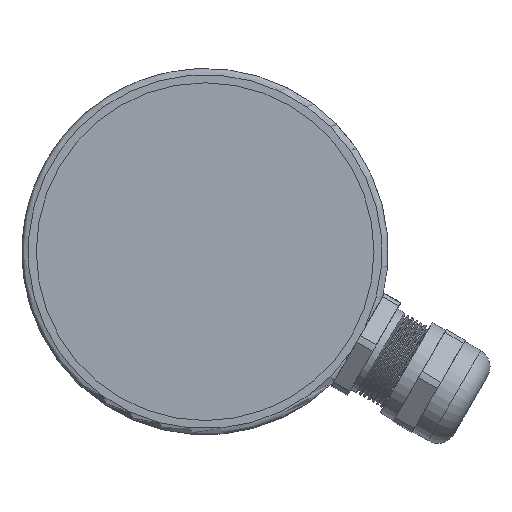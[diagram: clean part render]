
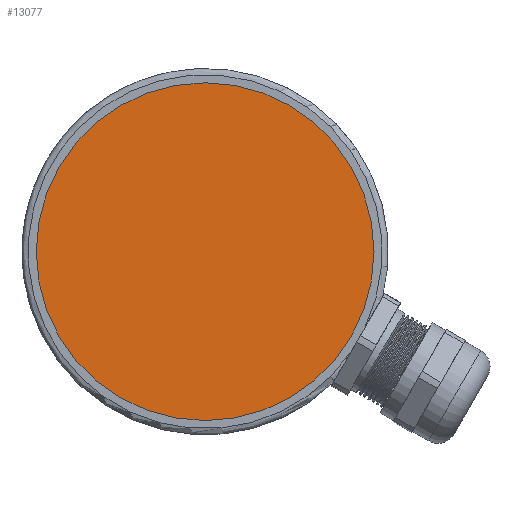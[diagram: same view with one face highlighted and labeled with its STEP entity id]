
A CAD part, front view. The second image highlights one B-rep face of the part: STEP entity #13077.
In plain terms, the highlighted planar face has unit normal (0, -1, 0).
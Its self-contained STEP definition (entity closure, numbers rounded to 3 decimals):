
#417 = CARTESIAN_POINT ( 'NONE',  ( 45.788, 13.859, 55.551 ) ) ;
#550 = EDGE_LOOP ( 'NONE', ( #3699, #15955 ) ) ;
#1144 = DIRECTION ( 'NONE',  ( 0., 1., 0. ) ) ;
#3699 = ORIENTED_EDGE ( 'NONE', *, *, #7755, .F. ) ;
#5335 = EDGE_CURVE ( 'NONE', #11943, #16049, #8720, .T. ) ;
#6060 = CIRCLE ( 'NONE', #10549, 27.2 ) ;
#6131 = CARTESIAN_POINT ( 'NONE',  ( 45.788, 13.859, 82.751 ) ) ;
#7755 = EDGE_CURVE ( 'NONE', #16049, #11943, #6060, .T. ) ;
#8712 = DIRECTION ( 'NONE',  ( 0., 0., 1. ) ) ;
#8715 = DIRECTION ( 'NONE',  ( 0., 1., 0. ) ) ;
#8720 = CIRCLE ( 'NONE', #9513, 27.2 ) ;
#8726 = CARTESIAN_POINT ( 'NONE',  ( 45.788, 13.859, 82.751 ) ) ;
#9513 = AXIS2_PLACEMENT_3D ( 'NONE', #8726, #8715, #8712 ) ;
#10467 = FACE_OUTER_BOUND ( 'NONE', #550, .T. ) ;
#10549 = AXIS2_PLACEMENT_3D ( 'NONE', #6131, #1144, #13040 ) ;
#11316 = DIRECTION ( 'NONE',  ( 0.866, 0., -0.5 ) ) ;
#11438 = DIRECTION ( 'NONE',  ( 0., 1., 0. ) ) ;
#11911 = CARTESIAN_POINT ( 'NONE',  ( 45.788, 13.859, 82.751 ) ) ;
#11943 = VERTEX_POINT ( 'NONE', #417 ) ;
#13040 = DIRECTION ( 'NONE',  ( 0., 0., 1. ) ) ;
#13077 = ADVANCED_FACE ( 'NONE', ( #10467 ), #13712, .F. ) ;
#13712 = PLANE ( 'NONE',  #15365 ) ;
#13880 = CARTESIAN_POINT ( 'NONE',  ( 45.788, 13.859, 109.951 ) ) ;
#15365 = AXIS2_PLACEMENT_3D ( 'NONE', #11911, #11438, #11316 ) ;
#15955 = ORIENTED_EDGE ( 'NONE', *, *, #5335, .F. ) ;
#16049 = VERTEX_POINT ( 'NONE', #13880 ) ;
